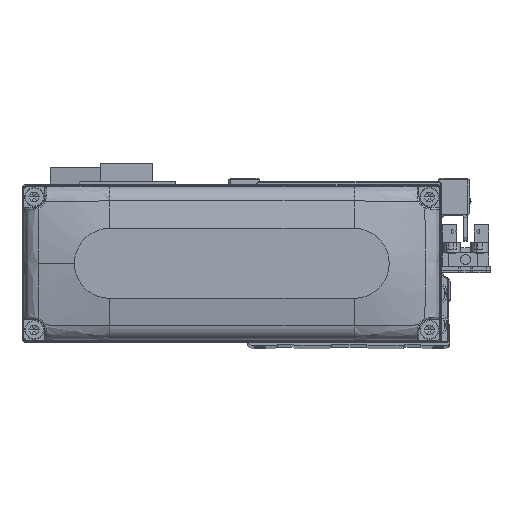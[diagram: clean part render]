
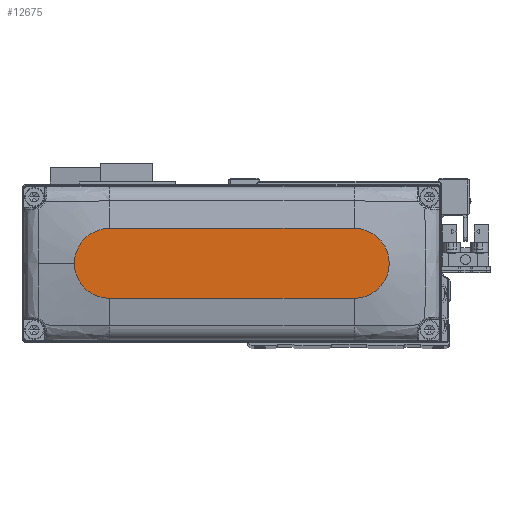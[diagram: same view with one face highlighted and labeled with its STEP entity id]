
A CAD part, top view. The second image highlights one B-rep face of the part: STEP entity #12675.
In plain terms, the highlighted planar face has unit normal (0, 0, 1).
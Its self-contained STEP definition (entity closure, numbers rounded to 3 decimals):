
#990 = ORIENTED_EDGE ( 'NONE', *, *, #13259, .T. ) ;
#1266 = VECTOR ( 'NONE', #26735, 1000. ) ;
#3047 = LINE ( 'NONE', #14891, #1266 ) ;
#3961 = CIRCLE ( 'NONE', #25661, 10. ) ;
#4280 = VERTEX_POINT ( 'NONE', #13422 ) ;
#4603 = EDGE_CURVE ( 'NONE', #4280, #23261, #21922, .T. ) ;
#6475 = AXIS2_PLACEMENT_3D ( 'NONE', #7223, #19057, #30907 ) ;
#6887 = CARTESIAN_POINT ( 'NONE',  ( 0., 0., 28. ) ) ;
#6888 = CARTESIAN_POINT ( 'NONE',  ( 35., 0., 28. ) ) ;
#7166 = DIRECTION ( 'NONE',  ( 1., 0., 0. ) ) ;
#7223 = CARTESIAN_POINT ( 'NONE',  ( 35., 0., 28. ) ) ;
#7720 = CARTESIAN_POINT ( 'NONE',  ( 35., 10., 28. ) ) ;
#8233 = VERTEX_POINT ( 'NONE', #11833 ) ;
#8661 = EDGE_CURVE ( 'NONE', #31196, #32836, #3047, .T. ) ;
#9831 = CARTESIAN_POINT ( 'NONE',  ( -35., 10., 28. ) ) ;
#10162 = AXIS2_PLACEMENT_3D ( 'NONE', #6887, #18714, #30561 ) ;
#10219 = CARTESIAN_POINT ( 'NONE',  ( -35., 0., 28. ) ) ;
#11114 = EDGE_CURVE ( 'NONE', #32836, #4280, #3961, .T. ) ;
#11455 = AXIS2_PLACEMENT_3D ( 'NONE', #6888, #18715, #30562 ) ;
#11773 = EDGE_LOOP ( 'NONE', ( #16390, #13680, #37728, #18476, #990 ) ) ;
#11833 = CARTESIAN_POINT ( 'NONE',  ( 45., 0., 28. ) ) ;
#12610 = CARTESIAN_POINT ( 'NONE',  ( 35., -10., 28. ) ) ;
#12675 = ADVANCED_FACE ( 'NONE', ( #21637 ), #33478, .T. ) ;
#13259 = EDGE_CURVE ( 'NONE', #8233, #31196, #23217, .T. ) ;
#13422 = CARTESIAN_POINT ( 'NONE',  ( -35., -10., 28. ) ) ;
#13680 = ORIENTED_EDGE ( 'NONE', *, *, #11114, .T. ) ;
#14891 = CARTESIAN_POINT ( 'NONE',  ( -35., 10., 28. ) ) ;
#16390 = ORIENTED_EDGE ( 'NONE', *, *, #8661, .T. ) ;
#18476 = ORIENTED_EDGE ( 'NONE', *, *, #23664, .T. ) ;
#18714 = DIRECTION ( 'NONE',  ( 0., 0., 1. ) ) ;
#18715 = DIRECTION ( 'NONE',  ( 0., 0., 1. ) ) ;
#19057 = DIRECTION ( 'NONE',  ( 0., 0., 1. ) ) ;
#20929 = VECTOR ( 'NONE', #7166, 1000. ) ;
#21637 = FACE_OUTER_BOUND ( 'NONE', #11773, .T. ) ;
#21922 = LINE ( 'NONE', #33761, #20929 ) ;
#22065 = DIRECTION ( 'NONE',  ( 0., 0., 1. ) ) ;
#23217 = CIRCLE ( 'NONE', #6475, 10. ) ;
#23261 = VERTEX_POINT ( 'NONE', #12610 ) ;
#23664 = EDGE_CURVE ( 'NONE', #23261, #8233, #28196, .T. ) ;
#25661 = AXIS2_PLACEMENT_3D ( 'NONE', #10219, #22065, #33898 ) ;
#26735 = DIRECTION ( 'NONE',  ( -1., 0., 0. ) ) ;
#28196 = CIRCLE ( 'NONE', #11455, 10. ) ;
#30561 = DIRECTION ( 'NONE',  ( 1., 0., 0. ) ) ;
#30562 = DIRECTION ( 'NONE',  ( 1., 0., 0. ) ) ;
#30907 = DIRECTION ( 'NONE',  ( 1., 0., 0. ) ) ;
#31196 = VERTEX_POINT ( 'NONE', #7720 ) ;
#32836 = VERTEX_POINT ( 'NONE', #9831 ) ;
#33478 = PLANE ( 'NONE',  #10162 ) ;
#33761 = CARTESIAN_POINT ( 'NONE',  ( -35., -10., 28. ) ) ;
#33898 = DIRECTION ( 'NONE',  ( 1., 0., 0. ) ) ;
#37728 = ORIENTED_EDGE ( 'NONE', *, *, #4603, .T. ) ;
